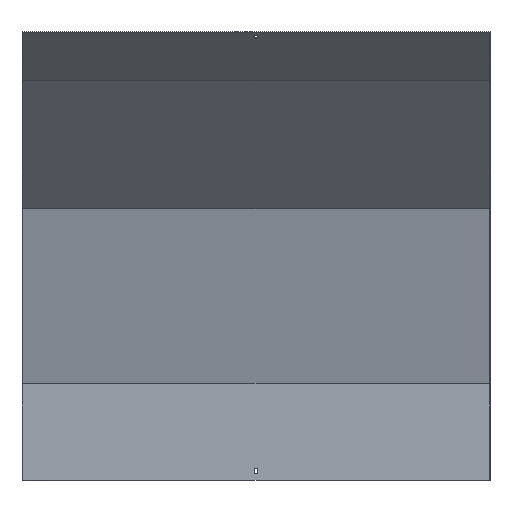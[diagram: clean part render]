
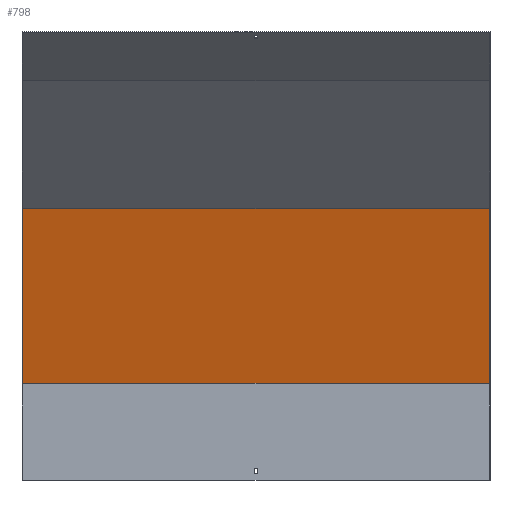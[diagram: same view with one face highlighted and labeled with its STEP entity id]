
A CAD part, front view. The second image highlights one B-rep face of the part: STEP entity #798.
In plain terms, the highlighted planar face has unit normal (0, -0.966, -0.259).
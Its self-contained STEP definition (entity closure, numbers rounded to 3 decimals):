
#9 = DIRECTION ( 'NONE',  ( 0., 0.259, -0.966 ) ) ;
#91 = CARTESIAN_POINT ( 'NONE',  ( -400., 18.5, 166.436 ) ) ;
#105 = LINE ( 'NONE', #640, #626 ) ;
#142 = EDGE_CURVE ( 'NONE', #421, #279, #435, .T. ) ;
#178 = CARTESIAN_POINT ( 'NONE',  ( 401.5, 17.87, 168.788 ) ) ;
#187 = DIRECTION ( 'NONE',  ( 0., -0.259, 0.966 ) ) ;
#228 = VERTEX_POINT ( 'NONE', #670 ) ;
#231 = AXIS2_PLACEMENT_3D ( 'NONE', #178, #705, #9 ) ;
#239 = DIRECTION ( 'NONE',  ( -1., 0., 0. ) ) ;
#268 = CARTESIAN_POINT ( 'NONE',  ( 401.5, -61.836, 466.252 ) ) ;
#279 = VERTEX_POINT ( 'NONE', #617 ) ;
#341 = ORIENTED_EDGE ( 'NONE', *, *, #142, .T. ) ;
#357 = EDGE_LOOP ( 'NONE', ( #671, #521, #736, #341 ) ) ;
#362 = CARTESIAN_POINT ( 'NONE',  ( 400., 58.87, 15.774 ) ) ;
#384 = DIRECTION ( 'NONE',  ( 0., -0.259, 0.966 ) ) ;
#386 = PLANE ( 'NONE',  #231 ) ;
#421 = VERTEX_POINT ( 'NONE', #456 ) ;
#435 = LINE ( 'NONE', #268, #489 ) ;
#456 = CARTESIAN_POINT ( 'NONE',  ( 400., -61.836, 466.252 ) ) ;
#467 = FACE_OUTER_BOUND ( 'NONE', #357, .T. ) ;
#489 = VECTOR ( 'NONE', #741, 1000. ) ;
#521 = ORIENTED_EDGE ( 'NONE', *, *, #965, .F. ) ;
#547 = VERTEX_POINT ( 'NONE', #91 ) ;
#555 = LINE ( 'NONE', #635, #900 ) ;
#617 = CARTESIAN_POINT ( 'NONE',  ( -400., -61.836, 466.252 ) ) ;
#626 = VECTOR ( 'NONE', #187, 1000. ) ;
#635 = CARTESIAN_POINT ( 'NONE',  ( 401.5, 18.5, 166.436 ) ) ;
#640 = CARTESIAN_POINT ( 'NONE',  ( -400., 58.87, 15.774 ) ) ;
#670 = CARTESIAN_POINT ( 'NONE',  ( 400., 18.5, 166.436 ) ) ;
#671 = ORIENTED_EDGE ( 'NONE', *, *, #931, .F. ) ;
#692 = VECTOR ( 'NONE', #384, 1000. ) ;
#705 = DIRECTION ( 'NONE',  ( 0., -0.966, -0.259 ) ) ;
#736 = ORIENTED_EDGE ( 'NONE', *, *, #764, .T. ) ;
#741 = DIRECTION ( 'NONE',  ( -1., 0., 0. ) ) ;
#764 = EDGE_CURVE ( 'NONE', #228, #421, #986, .T. ) ;
#798 = ADVANCED_FACE ( 'NONE', ( #467 ), #386, .T. ) ;
#900 = VECTOR ( 'NONE', #239, 1000. ) ;
#931 = EDGE_CURVE ( 'NONE', #547, #279, #105, .T. ) ;
#965 = EDGE_CURVE ( 'NONE', #228, #547, #555, .T. ) ;
#986 = LINE ( 'NONE', #362, #692 ) ;
